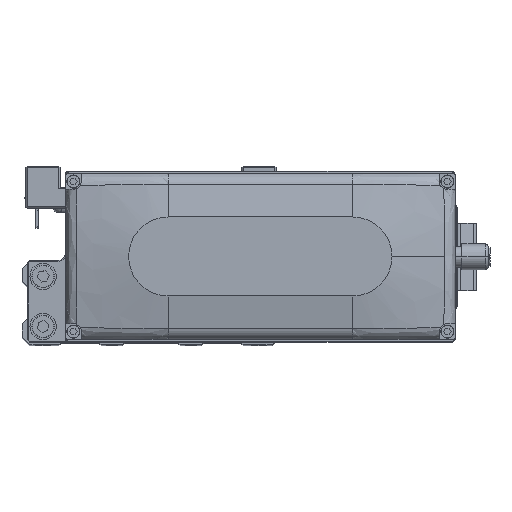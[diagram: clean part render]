
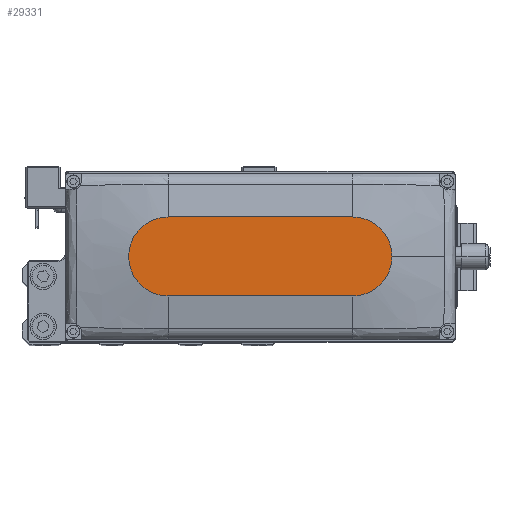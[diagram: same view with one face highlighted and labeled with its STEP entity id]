
A CAD part, top view. The second image highlights one B-rep face of the part: STEP entity #29331.
In plain terms, the highlighted planar face has unit normal (0, 0, 1).
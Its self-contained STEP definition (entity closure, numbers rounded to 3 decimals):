
#9 = DIRECTION ( 'NONE',  ( 1., 0., 0. ) ) ;
#496 = CARTESIAN_POINT ( 'NONE',  ( -35., 0., 35. ) ) ;
#969 = CARTESIAN_POINT ( 'NONE',  ( 35., 0., 35. ) ) ;
#1696 = DIRECTION ( 'NONE',  ( 1., 0., 0. ) ) ;
#2478 = AXIS2_PLACEMENT_3D ( 'NONE', #496, #12513, #24526 ) ;
#2616 = ORIENTED_EDGE ( 'NONE', *, *, #25936, .T. ) ;
#3451 = VERTEX_POINT ( 'NONE', #18118 ) ;
#4661 = PLANE ( 'NONE',  #6211 ) ;
#4702 = VERTEX_POINT ( 'NONE', #8408 ) ;
#4784 = ORIENTED_EDGE ( 'NONE', *, *, #25964, .T. ) ;
#5282 = CARTESIAN_POINT ( 'NONE',  ( 50., 0., 35. ) ) ;
#6211 = AXIS2_PLACEMENT_3D ( 'NONE', #16676, #28668, #1696 ) ;
#8408 = CARTESIAN_POINT ( 'NONE',  ( -35., 15., 35. ) ) ;
#9604 = CARTESIAN_POINT ( 'NONE',  ( -35., 15., 35. ) ) ;
#12378 = LINE ( 'NONE', #24402, #15504 ) ;
#12513 = DIRECTION ( 'NONE',  ( 0., 0., 1. ) ) ;
#12994 = DIRECTION ( 'NONE',  ( 0., 0., 1. ) ) ;
#13197 = CIRCLE ( 'NONE', #35202, 15. ) ;
#14993 = CARTESIAN_POINT ( 'NONE',  ( 35., 0., 35. ) ) ;
#15226 = ORIENTED_EDGE ( 'NONE', *, *, #32770, .T. ) ;
#15504 = VECTOR ( 'NONE', #36412, 1000. ) ;
#16676 = CARTESIAN_POINT ( 'NONE',  ( 0., 0., 35. ) ) ;
#18118 = CARTESIAN_POINT ( 'NONE',  ( 35., -15., 35. ) ) ;
#19203 = EDGE_CURVE ( 'NONE', #4702, #30658, #19465, .T. ) ;
#19465 = CIRCLE ( 'NONE', #2478, 15. ) ;
#19504 = EDGE_CURVE ( 'NONE', #3451, #25755, #13197, .T. ) ;
#20654 = CARTESIAN_POINT ( 'NONE',  ( 35., 15., 35. ) ) ;
#21369 = VERTEX_POINT ( 'NONE', #20654 ) ;
#21644 = DIRECTION ( 'NONE',  ( -1., 0., 0. ) ) ;
#21690 = AXIS2_PLACEMENT_3D ( 'NONE', #969, #12994, #25010 ) ;
#22896 = ORIENTED_EDGE ( 'NONE', *, *, #19203, .T. ) ;
#24402 = CARTESIAN_POINT ( 'NONE',  ( -35., -15., 35. ) ) ;
#24526 = DIRECTION ( 'NONE',  ( 1., 0., 0. ) ) ;
#25010 = DIRECTION ( 'NONE',  ( 1., 0., 0. ) ) ;
#25755 = VERTEX_POINT ( 'NONE', #5282 ) ;
#25936 = EDGE_CURVE ( 'NONE', #30658, #3451, #12378, .T. ) ;
#25964 = EDGE_CURVE ( 'NONE', #21369, #4702, #36605, .T. ) ;
#26992 = DIRECTION ( 'NONE',  ( 0., 0., 1. ) ) ;
#28153 = EDGE_LOOP ( 'NONE', ( #4784, #22896, #2616, #29978, #15226 ) ) ;
#28668 = DIRECTION ( 'NONE',  ( 0., 0., 1. ) ) ;
#28863 = CARTESIAN_POINT ( 'NONE',  ( -35., -15., 35. ) ) ;
#29331 = ADVANCED_FACE ( 'NONE', ( #31610 ), #4661, .T. ) ;
#29978 = ORIENTED_EDGE ( 'NONE', *, *, #19504, .T. ) ;
#30579 = VECTOR ( 'NONE', #21644, 1000. ) ;
#30658 = VERTEX_POINT ( 'NONE', #28863 ) ;
#31610 = FACE_OUTER_BOUND ( 'NONE', #28153, .T. ) ;
#32770 = EDGE_CURVE ( 'NONE', #25755, #21369, #38627, .T. ) ;
#35202 = AXIS2_PLACEMENT_3D ( 'NONE', #14993, #26992, #9 ) ;
#36412 = DIRECTION ( 'NONE',  ( 1., 0., 0. ) ) ;
#36605 = LINE ( 'NONE', #9604, #30579 ) ;
#38627 = CIRCLE ( 'NONE', #21690, 15. ) ;
